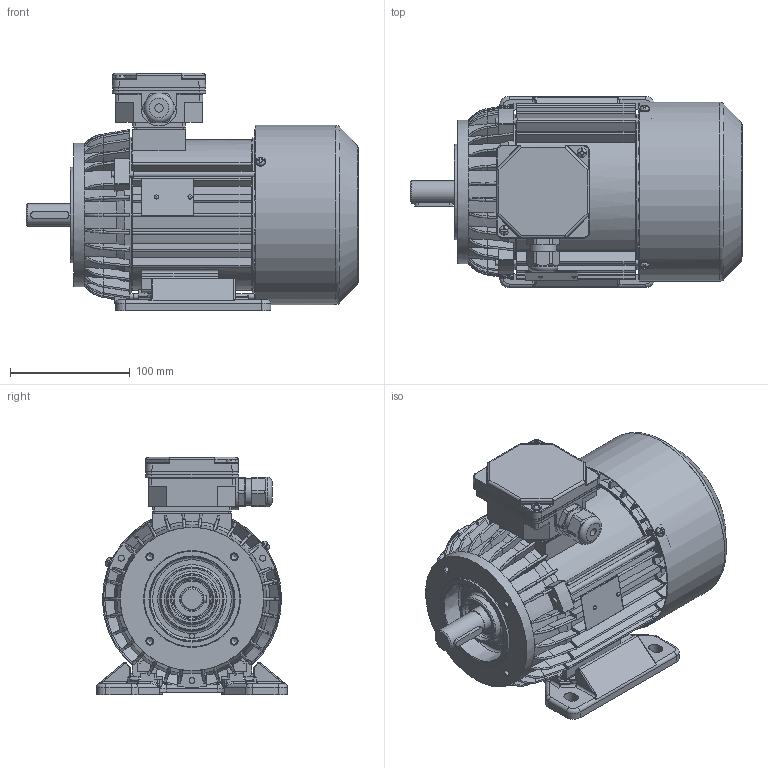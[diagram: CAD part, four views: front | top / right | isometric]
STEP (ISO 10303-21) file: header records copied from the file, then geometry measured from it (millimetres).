
FILE_DESCRIPTION(/* description */ ('Unknown'),/* implementation_level */ '2;1');
FILE_NAME(/* name */ 'SLh80-2B2',/* time_stamp */ '2019-02-13T11:47:15+01:00',/* author */ ('Klaudiusz Szlosek'),/* organization */ ('BESEL S.A.'),/* preprocessor_version */ 'ST-DEVELOPER v16.7',/* originating_system */ 'DEX',/* authorisation */ $);
FILE_SCHEMA (('AUTOMOTIVE_DESIGN {1 0 10303 214 3 1 1}'));
Products named in the file (1): Czêœæ12
Bounding box: 277.78 x 160 x 198.5 mm (x, y, z)
Volume: 971799.6 mm3; surface area: 537726.9 mm2
Topology: 3 solids, 3 shells, 2856 faces, 8158 edges, 5282 vertices
Faces by surface type: plane 1358, cylinder 869, bspline 256, torus 211, cone 142, sphere 20
Full cylindrical faces by diameter (mm): 2 x2, 2.4 x2, 3.7 x8, 4 x5, 4.5 x1, 4.6 x3, 4.8 x2, 5 x12, 5.5 x3, 6.5 x4, 7 x1, 8 x9, 18.998 x1, 19.298 x1, 19.498 x1, 19.898 x1, 20.298 x2, 20.398 x2, 20.4 x2, 22.3 x1, 25 x1, 25.497 x1, 25.997 x2, 26.097 x1, 26.997 x1, 28.799 x4, 30 x1, 34 x1, 38.198 x4, 42 x3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
Entity records: 120360 total; most frequent: CARTESIAN_POINT 29004, ORIENTED_EDGE 15534, DIRECTION 14078, EDGE_CURVE 7767, VERTEX_POINT 5128, AXIS2_PLACEMENT_3D 5111, LINE 3856, VECTOR 3856
